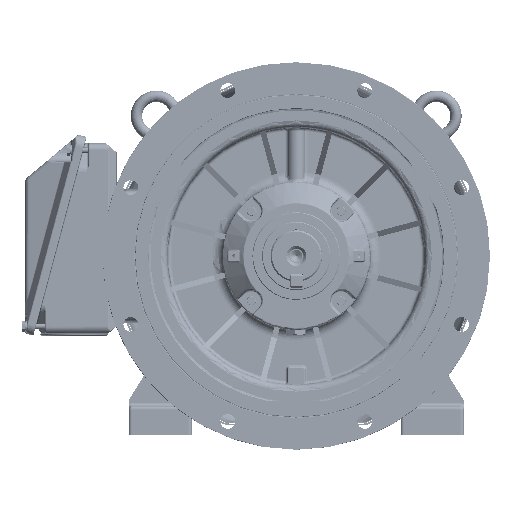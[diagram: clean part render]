
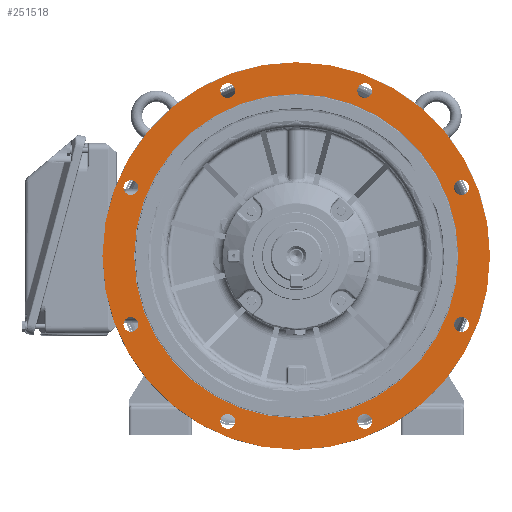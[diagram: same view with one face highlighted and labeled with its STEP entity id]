
A CAD part, front view. The second image highlights one B-rep face of the part: STEP entity #251518.
In plain terms, the highlighted planar face has unit normal (0, -1, 0).
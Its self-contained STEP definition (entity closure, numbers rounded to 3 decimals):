
#7419=PLANE('',#265628);
#12888=CIRCLE('',#265507,10.5);
#12889=CIRCLE('',#265509,10.5);
#12892=CIRCLE('',#265518,10.5);
#12893=CIRCLE('',#265520,10.5);
#12897=CIRCLE('',#265535,10.5);
#12898=CIRCLE('',#265537,10.5);
#12902=CIRCLE('',#265549,10.5);
#12903=CIRCLE('',#265551,10.5);
#12928=CIRCLE('',#265613,230.);
#12937=CIRCLE('',#265627,275.);
#56248=ORIENTED_EDGE('',*,*,#88596,.F.);
#56249=ORIENTED_EDGE('',*,*,#88621,.F.);
#56250=ORIENTED_EDGE('',*,*,#88611,.F.);
#56251=ORIENTED_EDGE('',*,*,#88610,.F.);
#56252=ORIENTED_EDGE('',*,*,#88622,.F.);
#56253=ORIENTED_EDGE('',*,*,#88586,.F.);
#56254=ORIENTED_EDGE('',*,*,#88585,.F.);
#56255=ORIENTED_EDGE('',*,*,#88595,.F.);
#56256=ORIENTED_EDGE('',*,*,#88677,.F.);
#56257=ORIENTED_EDGE('',*,*,#88686,.T.);
#88585=EDGE_CURVE('',#107504,#107504,#12888,.T.);
#88586=EDGE_CURVE('',#107505,#107505,#12889,.T.);
#88595=EDGE_CURVE('',#107510,#107510,#12892,.T.);
#88596=EDGE_CURVE('',#107511,#107511,#12893,.T.);
#88610=EDGE_CURVE('',#107517,#107517,#12897,.T.);
#88611=EDGE_CURVE('',#107518,#107518,#12898,.T.);
#88621=EDGE_CURVE('',#107523,#107523,#12902,.T.);
#88622=EDGE_CURVE('',#107524,#107524,#12903,.T.);
#88677=EDGE_CURVE('',#107547,#107547,#12928,.T.);
#88686=EDGE_CURVE('',#107548,#107548,#12937,.T.);
#107504=VERTEX_POINT('',#398374);
#107505=VERTEX_POINT('',#398377);
#107510=VERTEX_POINT('',#398425);
#107511=VERTEX_POINT('',#398428);
#107517=VERTEX_POINT('',#398551);
#107518=VERTEX_POINT('',#398554);
#107523=VERTEX_POINT('',#398605);
#107524=VERTEX_POINT('',#398608);
#107547=VERTEX_POINT('',#398751);
#107548=VERTEX_POINT('',#398766);
#152833=EDGE_LOOP('',(#56248));
#152834=EDGE_LOOP('',(#56249));
#152835=EDGE_LOOP('',(#56250));
#152836=EDGE_LOOP('',(#56251));
#152837=EDGE_LOOP('',(#56252));
#152838=EDGE_LOOP('',(#56253));
#152839=EDGE_LOOP('',(#56254));
#152840=EDGE_LOOP('',(#56255));
#152841=EDGE_LOOP('',(#56256));
#152842=EDGE_LOOP('',(#56257));
#166076=FACE_BOUND('',#152833,.T.);
#166077=FACE_BOUND('',#152834,.T.);
#166078=FACE_BOUND('',#152835,.T.);
#166079=FACE_BOUND('',#152836,.T.);
#166080=FACE_BOUND('',#152837,.T.);
#166081=FACE_BOUND('',#152838,.T.);
#166082=FACE_BOUND('',#152839,.T.);
#166083=FACE_BOUND('',#152840,.T.);
#166084=FACE_BOUND('',#152841,.T.);
#166085=FACE_BOUND('',#152842,.T.);
#251518=ADVANCED_FACE('',(#166076,#166077,#166078,#166079,#166080,#166081,
#166082,#166083,#166084,#166085),#7419,.F.);
#265507=AXIS2_PLACEMENT_3D('',#398373,#305452,#305453);
#265509=AXIS2_PLACEMENT_3D('',#398376,#305456,#305457);
#265518=AXIS2_PLACEMENT_3D('',#398424,#305476,#305477);
#265520=AXIS2_PLACEMENT_3D('',#398427,#305480,#305481);
#265535=AXIS2_PLACEMENT_3D('',#398550,#305512,#305513);
#265537=AXIS2_PLACEMENT_3D('',#398553,#305516,#305517);
#265549=AXIS2_PLACEMENT_3D('',#398604,#305542,#305543);
#265551=AXIS2_PLACEMENT_3D('',#398607,#305546,#305547);
#265613=AXIS2_PLACEMENT_3D('',#398750,#305696,#305697);
#265627=AXIS2_PLACEMENT_3D('',#398765,#305724,#305725);
#265628=AXIS2_PLACEMENT_3D('',#398767,#305726,#305727);
#305452=DIRECTION('',(0.,-1.,0.));
#305453=DIRECTION('',(0.,0.,1.));
#305456=DIRECTION('',(0.,-1.,0.));
#305457=DIRECTION('',(0.,0.,1.));
#305476=DIRECTION('',(0.,-1.,0.));
#305477=DIRECTION('',(0.,0.,1.));
#305480=DIRECTION('',(0.,-1.,0.));
#305481=DIRECTION('',(0.,0.,1.));
#305512=DIRECTION('',(0.,-1.,0.));
#305513=DIRECTION('',(0.,0.,1.));
#305516=DIRECTION('',(0.,-1.,0.));
#305517=DIRECTION('',(0.,0.,1.));
#305542=DIRECTION('',(0.,-1.,0.));
#305543=DIRECTION('',(0.,0.,1.));
#305546=DIRECTION('',(0.,-1.,0.));
#305547=DIRECTION('',(0.,0.,1.));
#305696=DIRECTION('',(0.,-1.,0.));
#305697=DIRECTION('',(-1.,0.,0.));
#305724=DIRECTION('',(0.,-1.,0.));
#305725=DIRECTION('',(-1.,0.,0.));
#305726=DIRECTION('',(0.,1.,0.));
#305727=DIRECTION('',(1.,0.,0.));
#398373=CARTESIAN_POINT('',(-97.202,-90.02,-234.665));
#398374=CARTESIAN_POINT('',(-97.202,-90.02,-224.165));
#398376=CARTESIAN_POINT('',(97.202,-90.02,-234.665));
#398377=CARTESIAN_POINT('',(97.202,-90.02,-224.165));
#398424=CARTESIAN_POINT('',(-234.665,-90.02,-97.202));
#398425=CARTESIAN_POINT('',(-234.665,-90.02,-86.702));
#398427=CARTESIAN_POINT('',(-234.665,-90.02,97.202));
#398428=CARTESIAN_POINT('',(-234.665,-90.02,107.702));
#398550=CARTESIAN_POINT('',(-97.202,-90.02,234.665));
#398551=CARTESIAN_POINT('',(-97.202,-90.02,245.165));
#398553=CARTESIAN_POINT('',(97.202,-90.02,234.665));
#398554=CARTESIAN_POINT('',(97.202,-90.02,245.165));
#398604=CARTESIAN_POINT('',(234.665,-90.02,97.202));
#398605=CARTESIAN_POINT('',(234.665,-90.02,107.702));
#398607=CARTESIAN_POINT('',(234.665,-90.02,-97.202));
#398608=CARTESIAN_POINT('',(234.665,-90.02,-86.702));
#398750=CARTESIAN_POINT('',(0.,-90.02,0.));
#398751=CARTESIAN_POINT('',(-230.,-90.02,0.));
#398765=CARTESIAN_POINT('',(0.,-90.02,0.));
#398766=CARTESIAN_POINT('',(-275.,-90.02,0.));
#398767=CARTESIAN_POINT('',(230.,-90.02,0.));
